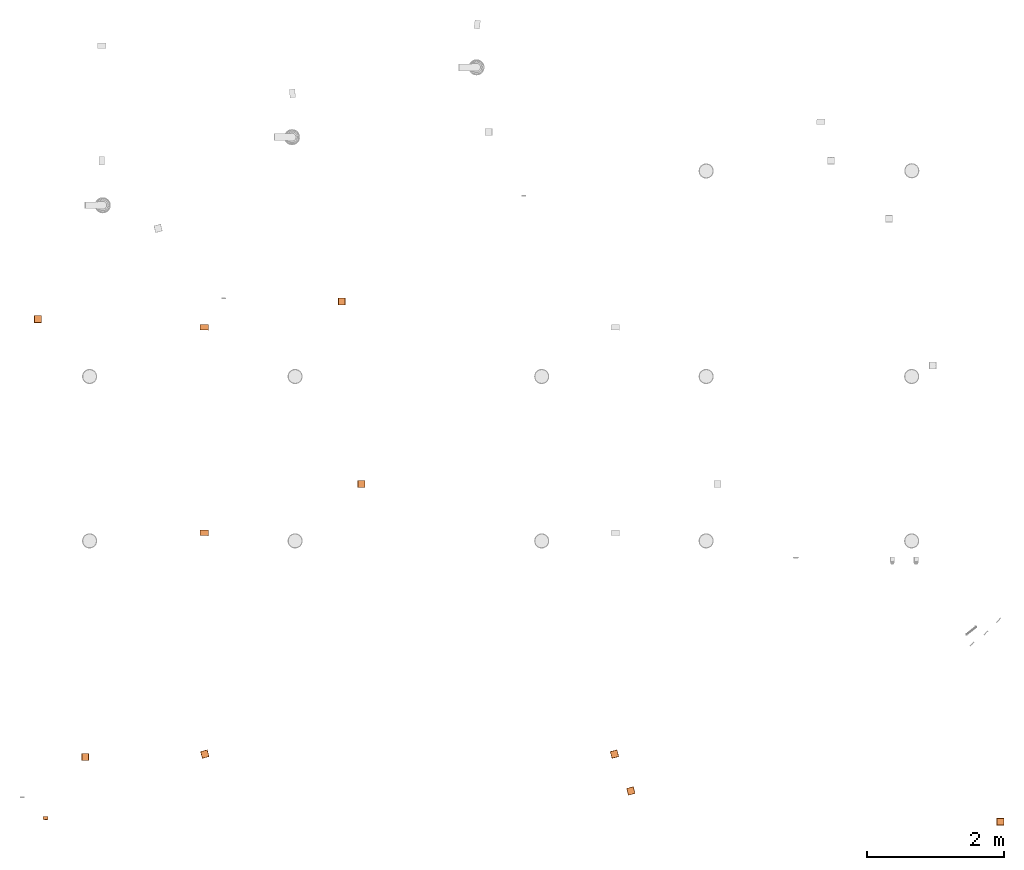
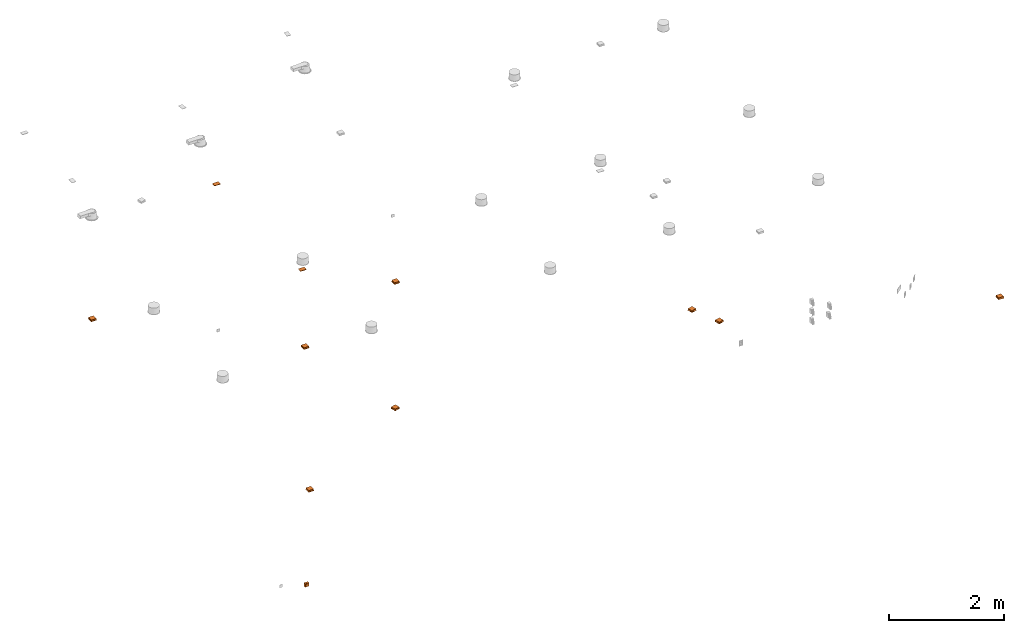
# One storey, part 3 of 9: 11 proxies.
"""IFC2X3 building model written with IfcOpenShell, lengths in millimetres."""

from ifc_helpers import new_model, entity, si_unit, converted_unit, derived_unit, direction, frame, frame_2d, origin, origin_2d_with_axis, place, context, subcontext, project, spatial, polyline, circle_curve, parameter, trimmed, segment, composite_curve, rectangle, circle, hollow_circle, outline, extrude, source, transform, mapped, material, type_object, element, save


model = new_model("IFC2X3")

# Units and contexts
model_context = context("Model", 3, precision=0.01, world=frame((0.0, 4.29681676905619e-09, 0.0)), true_north=direction((4.01073788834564e-13, 1.0)))
plan_context = context("Plan", 3, precision=0.01, world=frame((0.0, 4.29681676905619e-09, 0.0)), true_north=direction((4.01073788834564e-13, 1.0)))
body_context = subcontext(model_context, "Body", "Model", "MODEL_VIEW")
ifc_project = project(units=[converted_unit("PLANEANGLEUNIT", "DEGREE", entity("IfcPositiveLengthMeasure", 0.0174532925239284), si_unit("PLANEANGLEUNIT", "RADIAN"), dimensions=[0, 0, 0, 0, 0, 0, 0]), si_unit("AREAUNIT", "SQUARE_METRE"), si_unit("LENGTHUNIT", "METRE", prefix="MILLI"), si_unit("MASSUNIT", "GRAM", prefix="KILO"), si_unit("POWERUNIT", "WATT"), si_unit("PRESSUREUNIT", "PASCAL", prefix="KILO"), si_unit("FORCEUNIT", "NEWTON", prefix="KILO"), si_unit("ELECTRICVOLTAGEUNIT", "VOLT"), si_unit("ELECTRICCURRENTUNIT", "AMPERE"), si_unit("THERMODYNAMICTEMPERATUREUNIT", "DEGREE_CELSIUS"), si_unit("TIMEUNIT", "SECOND"), si_unit("VOLUMEUNIT", "CUBIC_METRE"), derived_unit("LINEARVELOCITYUNIT", [(si_unit("LENGTHUNIT", "METRE"), 1), (si_unit("TIMEUNIT", "SECOND"), -1)]), derived_unit("VOLUMETRICFLOWRATEUNIT", [(si_unit("VOLUMEUNIT", "CUBIC_METRE"), 1), (si_unit("TIMEUNIT", "SECOND"), -1)]), derived_unit("THERMALTRANSMITTANCEUNIT", [(si_unit("POWERUNIT", "WATT"), 1), (si_unit("THERMODYNAMICTEMPERATUREUNIT", "KELVIN"), -1), (si_unit("AREAUNIT", "SQUARE_METRE"), -1)]), derived_unit("SOUNDPRESSUREUNIT", [(si_unit("PRESSUREUNIT", "PASCAL"), 1)])], contexts=[model_context, plan_context])

# Site, building, storey
site_placement = place(None, frame((0.0, -4.29681676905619e-09, 0.0), z_axis=(0.0, 0.0, 1.0), x_axis=(1.0, 0.0, 0.0)))
site = spatial("IfcSite", under=ifc_project, at=site_placement, Name="Default", CompositionType="ELEMENT")
building_placement = place(site_placement, frame((0.0, 4.29681676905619e-09, 0.0), z_axis=(0.0, 0.0, 1.0), x_axis=(1.0, 0.0, 0.0)))
building = spatial("IfcBuilding", under=site, at=building_placement, CompositionType="ELEMENT")
storey_placement = place(building_placement, frame((0.0, 0.0, 210900.0), z_axis=(0.0, 0.0, 1.0), x_axis=(1.0, 0.0, 0.0)))
storey = spatial("IfcBuildingStorey", under=building, at=storey_placement, Name="Nivå F", CompositionType="ELEMENT", Elevation=210900.0)

# Proxies
ifc_material = material(Name="<Unnamed>")
building_element_proxy_type_1 = type_object("IfcBuildingElementProxyType", Name="Jordet-topolet-2-veis m_boks-i-tak:Jordet-topolet-2-veis m_boks-i-tak", PredefinedType="NOTDEFINED", material=ifc_material)
shared_shape_1 = source(origin(), body_context, "Body", "SweptSolid", [
    extrude(outline(composite_curve([segment(polyline([(-6.66666666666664, -6.66666666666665), (13.3333333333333, -6.66666666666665)]), True, "CONTINUOUS"), segment(trimmed(circle_curve(frame_2d((13.3333333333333, 13.3333333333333), x_axis=(-1.0, 0.0)), 20.0), [parameter(360.0)], [parameter(90.0)], True, "PARAMETER"), False, "CONTINUOUS"), segment(polyline([(-6.66666666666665, 13.3333333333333), (-6.66666666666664, -6.66666666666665)]), True, "CONTINUOUS")], self_intersect=False)), frame((39.0833333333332, 13.3933333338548, -17.1), z_axis=(0.0, 0.0, 1.0), x_axis=(-1.0, 0.0, 0.0)), (0.0, 0.0, 1.0), 0.200000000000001),
    extrude(outline(composite_curve([segment(polyline([(-6.66666666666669, -6.66666666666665), (13.3333333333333, -6.66666666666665)]), True, "CONTINUOUS"), segment(trimmed(circle_curve(frame_2d((13.3333333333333, 13.3333333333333), x_axis=(0.0, -1.0)), 20.0), [parameter(270.0)], [parameter(5.08888749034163e-14)], True, "PARAMETER"), False, "CONTINUOUS"), segment(polyline([(-6.66666666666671, 13.3333333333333), (-6.66666666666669, -6.66666666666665)]), True, "CONTINUOUS")], self_intersect=False)), frame((39.0833333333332, -13.3233333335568, -17.1), z_axis=(0.0, 0.0, 1.0), x_axis=(0.0, 1.0, 0.0)), (0.0, 0.0, 1.0), 0.200000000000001),
    extrude(outline(composite_curve([segment(polyline([(-6.66666666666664, -6.66666666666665), (13.3333333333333, -6.66666666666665)]), True, "CONTINUOUS"), segment(trimmed(circle_curve(frame_2d((13.3333333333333, 13.3333333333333), x_axis=(0.0, -1.0)), 20.0), [parameter(270.0)], [parameter(0.0)], True, "PARAMETER"), False, "CONTINUOUS"), segment(polyline([(-6.66666666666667, 13.3333333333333), (-6.66666666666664, -6.66666666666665)]), True, "CONTINUOUS")], self_intersect=False)), frame((12.4166666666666, 13.3433333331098, -17.1), z_axis=(0.0, 0.0, 1.0), x_axis=(0.0, -1.0, 0.0)), (0.0, 0.0, 1.0), 0.200000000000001),
    extrude(outline(composite_curve([segment(polyline([(-6.66666666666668, -6.66666666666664), (13.3333333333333, -6.66666666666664)]), True, "CONTINUOUS"), segment(trimmed(circle_curve(frame_2d((13.3333333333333, 13.3333333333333), x_axis=(0.0, -1.0)), 20.0), [parameter(270.0)], [parameter(0.0)], True, "PARAMETER"), False, "CONTINUOUS"), segment(polyline([(-6.66666666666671, 13.3333333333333), (-6.66666666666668, -6.66666666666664)]), True, "CONTINUOUS")], self_intersect=False)), frame((39.0833333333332, -13.3833333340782, -17.1), z_axis=(0.0, 0.0, 1.0), x_axis=(0.0, 1.0, 0.0)), (0.0, 0.0, 1.0), 0.200000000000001),
    extrude(outline(composite_curve([segment(polyline([(-6.66666666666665, -6.66666666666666), (13.3333333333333, -6.66666666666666)]), True, "CONTINUOUS"), segment(trimmed(circle_curve(frame_2d((13.3333333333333, 13.3333333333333), x_axis=(-1.0, 0.0)), 20.0), [parameter(360.0)], [parameter(89.9999999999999)], True, "PARAMETER"), False, "CONTINUOUS"), segment(polyline([(-6.66666666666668, 13.3333333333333), (-6.66666666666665, -6.66666666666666)]), True, "CONTINUOUS")], self_intersect=False)), frame((39.0833333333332, 13.3333333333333, -17.1), z_axis=(0.0, 0.0, 1.0), x_axis=(-1.0, 0.0, 0.0)), (0.0, 0.0, 1.0), 0.200000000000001),
    extrude(outline(composite_curve([segment(polyline([(-6.66666666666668, -6.66666666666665), (13.3333333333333, -6.66666666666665)]), True, "CONTINUOUS"), segment(trimmed(circle_curve(frame_2d((13.3333333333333, 13.3333333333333), x_axis=(-1.0, 0.0)), 20.0), [parameter(0.0)], [parameter(90.0)], True, "PARAMETER"), False, "CONTINUOUS"), segment(polyline([(-6.66666666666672, 13.3333333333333), (-6.66666666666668, -6.66666666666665)]), True, "CONTINUOUS")], self_intersect=False)), frame((12.4166666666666, -13.3333333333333, -17.1)), (0.0, 0.0, 1.0), 0.200000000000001),
    extrude(outline(composite_curve([segment(polyline([(-6.66666666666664, -6.66666666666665), (13.3333333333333, -6.66666666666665)]), True, "CONTINUOUS"), segment(trimmed(circle_curve(frame_2d((13.3333333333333, 13.3333333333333), x_axis=(-1.0, 0.0)), 20.0), [parameter(0.0)], [parameter(90.0)], True, "PARAMETER"), False, "CONTINUOUS"), segment(polyline([(-6.66666666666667, 13.3333333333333), (-6.66666666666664, -6.66666666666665)]), True, "CONTINUOUS")], self_intersect=False)), frame((-12.4166666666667, 13.3933333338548, -17.1), z_axis=(0.0, 0.0, 1.0), x_axis=(-1.0, 0.0, 0.0)), (0.0, 0.0, 1.0), 0.200000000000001),
    extrude(outline(composite_curve([segment(polyline([(-6.66666666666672, -6.66666666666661), (13.3333333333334, -6.66666666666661)]), True, "CONTINUOUS"), segment(trimmed(circle_curve(frame_2d((13.3333333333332, 13.3333333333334), x_axis=(0.0, -1.0)), 20.0), [parameter(270.0)], [parameter(3.56222124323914e-13)], True, "PARAMETER"), False, "CONTINUOUS"), segment(polyline([(-6.66666666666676, 13.3333333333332), (-6.66666666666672, -6.66666666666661)]), True, "CONTINUOUS")], self_intersect=False)), frame((-12.4166666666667, -13.3233333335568, -17.1), z_axis=(0.0, 0.0, 1.0), x_axis=(0.0, 1.0, 0.0)), (0.0, 0.0, 1.0), 0.200000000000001),
    extrude(outline(composite_curve([segment(polyline([(-6.66666666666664, -6.66666666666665), (13.3333333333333, -6.66666666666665)]), True, "CONTINUOUS"), segment(trimmed(circle_curve(frame_2d((13.3333333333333, 13.3333333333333), x_axis=(0.0, -1.0)), 20.0), [parameter(270.0)], [parameter(0.0)], True, "PARAMETER"), False, "CONTINUOUS"), segment(polyline([(-6.66666666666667, 13.3333333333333), (-6.66666666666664, -6.66666666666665)]), True, "CONTINUOUS")], self_intersect=False)), frame((-39.0833333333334, 13.3433333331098, -17.1), z_axis=(0.0, 0.0, 1.0), x_axis=(0.0, -1.0, 0.0)), (0.0, 0.0, 1.0), 0.200000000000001),
    extrude(outline(composite_curve([segment(polyline([(-6.66666666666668, -6.66666666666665), (13.3333333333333, -6.66666666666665)]), True, "CONTINUOUS"), segment(trimmed(circle_curve(frame_2d((13.3333333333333, 13.3333333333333), x_axis=(0.0, -1.0)), 20.0), [parameter(270.0)], [parameter(0.0)], True, "PARAMETER"), False, "CONTINUOUS"), segment(polyline([(-6.66666666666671, 13.3333333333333), (-6.66666666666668, -6.66666666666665)]), True, "CONTINUOUS")], self_intersect=False)), frame((-12.4166666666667, -13.3833333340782, -17.1), z_axis=(0.0, 0.0, 1.0), x_axis=(0.0, 1.0, 0.0)), (0.0, 0.0, 1.0), 0.200000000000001),
    extrude(outline(composite_curve([segment(polyline([(-6.66666666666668, -6.66666666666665), (13.3333333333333, -6.66666666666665)]), True, "CONTINUOUS"), segment(trimmed(circle_curve(frame_2d((13.3333333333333, 13.3333333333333), x_axis=(-1.0, 0.0)), 20.0), [parameter(0.0)], [parameter(90.0)], True, "PARAMETER"), False, "CONTINUOUS"), segment(polyline([(-6.66666666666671, 13.3333333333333), (-6.66666666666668, -6.66666666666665)]), True, "CONTINUOUS")], self_intersect=False)), frame((-12.4166666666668, 13.3333333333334, -17.1), z_axis=(0.0, 0.0, 1.0), x_axis=(-1.0, 0.0, 0.0)), (0.0, 0.0, 1.0), 0.200000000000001),
    extrude(outline(composite_curve([segment(polyline([(-6.66666666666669, -6.66666666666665), (13.3333333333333, -6.66666666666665)]), True, "CONTINUOUS"), segment(trimmed(circle_curve(frame_2d((13.3333333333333, 13.3333333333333), x_axis=(-1.0, 0.0)), 20.0), [parameter(0.0)], [parameter(90.0)], True, "PARAMETER"), False, "CONTINUOUS"), segment(polyline([(-6.66666666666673, 13.3333333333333), (-6.66666666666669, -6.66666666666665)]), True, "CONTINUOUS")], self_intersect=False)), frame((-39.0833333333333, -13.3333333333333, -17.1)), (0.0, 0.0, 1.0), 0.200000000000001),
    extrude(rectangle(XDim=0.200000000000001, YDim=1.0, at=origin_2d_with_axis()), frame((26.1999999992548, -17.5, -19.0), z_axis=(0.0, 0.0, 1.0), x_axis=(0.0, 1.0, 0.0)), (0.0, 0.0, 1.0), 6.0),
    extrude(rectangle(XDim=0.200000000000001, YDim=1.0, at=frame_2d((2.11636264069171e-15, 0.0), x_axis=(1.0, 0.0))), frame((26.1999999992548, -19.5, -17.0), z_axis=(0.0, 0.0, 1.0), x_axis=(0.0, 1.0, 0.0)), (0.0, 0.0, 1.0), 12.0),
    extrude(rectangle(XDim=0.200000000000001, YDim=1.0, at=frame_2d((2.11636264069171e-15, 0.0), x_axis=(1.0, 0.0))), frame((26.1999999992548, 17.5, -19.0), z_axis=(0.0, 0.0, 1.0), x_axis=(0.0, 1.0, 0.0)), (0.0, 0.0, 1.0), 6.0),
    extrude(rectangle(XDim=0.200000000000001, YDim=1.0, at=frame_2d((2.11636264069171e-15, 0.0), x_axis=(1.0, 0.0))), frame((26.1999999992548, 19.5, -17.0), z_axis=(0.0, 0.0, 1.0), x_axis=(0.0, 1.0, 0.0)), (0.0, 0.0, 1.0), 12.0),
    extrude(rectangle(XDim=0.200000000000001, YDim=1.0, at=origin_2d_with_axis()), frame((-25.3000000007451, -17.5, -19.0), z_axis=(0.0, 0.0, 1.0), x_axis=(0.0, 1.0, 0.0)), (0.0, 0.0, 1.0), 6.0),
    extrude(rectangle(XDim=0.200000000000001, YDim=1.0, at=frame_2d((2.11636264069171e-15, 0.0), x_axis=(1.0, 0.0))), frame((-25.3000000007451, -19.5, -17.0), z_axis=(0.0, 0.0, 1.0), x_axis=(0.0, 1.0, 0.0)), (0.0, 0.0, 1.0), 12.0),
    extrude(rectangle(XDim=0.200000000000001, YDim=1.0, at=frame_2d((2.11636264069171e-15, 0.0), x_axis=(1.0, 0.0))), frame((-25.3000000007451, 17.5, -19.0), z_axis=(0.0, 0.0, 1.0), x_axis=(0.0, 1.0, 0.0)), (0.0, 0.0, 1.0), 6.0),
    extrude(rectangle(XDim=0.200000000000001, YDim=1.0, at=frame_2d((2.11636264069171e-15, 0.0), x_axis=(1.0, 0.0))), frame((-25.3000000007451, 19.5, -17.0), z_axis=(0.0, 0.0, 1.0), x_axis=(0.0, 1.0, 0.0)), (0.0, 0.0, 1.0), 12.0),
    extrude(rectangle(XDim=11.0, YDim=40.0, at=origin_2d_with_axis()), frame((25.7499999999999, 25.5099999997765, -17.1), z_axis=(0.0, 0.0, 1.0), x_axis=(0.0, -1.0, 0.0)), (0.0, 0.0, 1.0), 0.200000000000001),
    extrude(rectangle(XDim=40.0, YDim=11.0, at=frame_2d((5.32907051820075e-15, 2.22044604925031e-15), x_axis=(1.0, 0.0))), frame((25.7499999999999, -25.5, -17.1)), (0.0, 0.0, 1.0), 0.200000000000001),
    extrude(rectangle(XDim=5.75, YDim=61.9999999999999, at=origin_2d_with_axis()), frame((48.625, 0.0, -17.1)), (0.0, 0.0, 1.0), 0.200000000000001),
    extrude(rectangle(XDim=61.9999999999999, YDim=5.74999999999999, at=frame_2d((0.0, 4.44089209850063e-16), x_axis=(1.0, 0.0))), frame((2.87499999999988, 0.0, -17.1), z_axis=(0.0, 0.0, 1.0), x_axis=(0.0, 1.0, 0.0)), (0.0, 0.0, 1.0), 0.200000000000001),
    extrude(rectangle(XDim=11.0, YDim=40.0, at=frame_2d((0.0, -3.5527136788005e-15), x_axis=(1.0, 0.0))), frame((-25.75, 25.5099999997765, -17.1), z_axis=(0.0, 0.0, 1.0), x_axis=(0.0, -1.0, 0.0)), (0.0, 0.0, 1.0), 0.200000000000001),
    extrude(rectangle(XDim=40.0, YDim=11.0, at=frame_2d((0.0, 2.22044604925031e-15), x_axis=(1.0, 0.0))), frame((-25.75, -25.5, -17.1)), (0.0, 0.0, 1.0), 0.200000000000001),
    extrude(rectangle(XDim=5.74999999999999, YDim=61.9999999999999, at=frame_2d((-4.44089209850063e-16, 0.0), x_axis=(1.0, 0.0))), frame((-2.875, 0.0, -17.1)), (0.0, 0.0, 1.0), 0.200000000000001),
    extrude(rectangle(XDim=61.9999999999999, YDim=5.75, at=origin_2d_with_axis()), frame((-48.6250000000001, 0.0, -17.1), z_axis=(0.0, 0.0, 1.0), x_axis=(0.0, 1.0, 0.0)), (0.0, 0.0, 1.0), 0.200000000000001),
    extrude(outline(polyline([(-28.6835176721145, -30.3192317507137), (-10.1362806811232, -30.3192317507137), (23.2918790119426, 21.8972229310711), (15.5279193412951, 38.7412405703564), (-28.6835176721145, -30.3192317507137)])), frame((56.42317787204, 0.0, -10.9359815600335), z_axis=(0.768221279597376, 0.0, -0.64018439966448), x_axis=(-0.539163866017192, 0.539163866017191, -0.646996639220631)), (0.0, 0.0, 1.0), 0.199999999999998),
    extrude(outline(polyline([(-28.6835176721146, -30.3192317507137), (-10.1362806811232, -30.3192317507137), (23.2918790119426, 21.897222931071), (15.5279193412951, 38.7412405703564), (-28.6835176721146, -30.3192317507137)])), frame((-56.5768221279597, 0.0, -11.0640184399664), z_axis=(0.768221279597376, 0.0, 0.64018439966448), x_axis=(0.539163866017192, 0.539163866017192, -0.646996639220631)), (0.0, 0.0, 1.0), 0.199999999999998),
    extrude(outline(polyline([(-51.4999999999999, -7.81024967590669), (51.5, -7.81024967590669), (61.4999999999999, 7.81024967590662), (-61.5, 7.81024967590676), (-51.4999999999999, -7.81024967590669)])), frame((0.0, -36.0768221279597, -11.0640184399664), z_axis=(0.0, 0.768221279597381, 0.640184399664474), x_axis=(-1.0, 0.0, 0.0)), (0.0, 0.0, 1.0), 0.200000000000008),
    extrude(outline(polyline([(-51.4999999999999, -7.81024967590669), (51.5, -7.81024967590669), (61.4999999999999, 7.81024967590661), (-61.5, 7.81024967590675), (-51.4999999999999, -7.81024967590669)])), frame((0.0, 35.9231778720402, -10.9359815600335), z_axis=(0.0, 0.768221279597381, -0.640184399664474), x_axis=(-1.0, 0.0, 0.0)), (0.0, 0.0, 1.0), 0.199999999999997),
    extrude(circle(Radius=2.5, at=frame_2d((-4.22994972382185e-15, -1.1255311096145e-14), x_axis=(1.0, 0.0))), frame((35.7499999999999, 0.0, -5.6), z_axis=(0.0, 0.0, 1.0), x_axis=(-1.0, 0.0, 0.0)), (0.0, 0.0, 1.0), 0.2),
    extrude(circle(Radius=2.5, at=frame_2d((0.0, -1.1255311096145e-14), x_axis=(1.0, 0.0))), frame((15.7499999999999, 0.0, -5.6), z_axis=(0.0, 0.0, 1.0), x_axis=(-1.0, 0.0, 0.0)), (0.0, 0.0, 1.0), 0.2),
    extrude(circle(Radius=2.5, at=frame_2d((0.0, -1.1255311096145e-14), x_axis=(1.0, 0.0))), frame((-15.75, 0.0, -5.6), z_axis=(0.0, 0.0, 1.0), x_axis=(-1.0, 0.0, 0.0)), (0.0, 0.0, 1.0), 0.2),
    extrude(circle(Radius=2.5, at=frame_2d((0.0, -1.1255311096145e-14), x_axis=(1.0, 0.0))), frame((-35.75, 0.0, -5.6), z_axis=(0.0, 0.0, 1.0), x_axis=(-1.0, 0.0, 0.0)), (0.0, 0.0, 1.0), 0.2),
    extrude(circle(Radius=20.0, at=frame_2d((0.0, -9.00424887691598e-14), x_axis=(1.0, 0.0))), frame((25.7499999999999, 0.0, -5.09999999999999), z_axis=(0.0, 0.0, 1.0), x_axis=(-1.0, 0.0, 0.0)), (0.0, 0.0, 1.0), 0.2),
    extrude(circle(Radius=20.0, at=frame_2d((4.22994972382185e-15, -9.00424887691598e-14), x_axis=(1.0, 0.0))), frame((-25.75, 0.0, -5.09999999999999), z_axis=(0.0, 0.0, 1.0), x_axis=(-1.0, 0.0, 0.0)), (0.0, 0.0, 1.0), 0.2),
    extrude(outline(composite_curve([segment(trimmed(circle_curve(frame_2d((-0.800000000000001, 0.799999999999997), x_axis=(1.0, 0.0)), 2.0), [parameter(270.0)], [parameter(0.0)], True, "PARAMETER"), True, "CONTINUOUS"), segment(polyline([(1.2, 0.799999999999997), (0.400000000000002, 0.799999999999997)]), True, "CONTINUOUS"), segment(trimmed(circle_curve(frame_2d((-0.800000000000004, 0.800000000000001), x_axis=(0.0, -1.0)), 1.20000000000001), [parameter(0.0)], [parameter(89.9999999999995)], True, "PARAMETER"), False, "CONTINUOUS"), segment(polyline([(-0.799999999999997, -0.400000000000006), (-0.799999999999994, -1.2)]), True, "CONTINUOUS")], self_intersect=False)), frame((24.6999999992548, -18.3, -17.8), z_axis=(1.0, 0.0, 0.0), x_axis=(0.0, 0.0, -1.0)), (0.0, 0.0, 1.0), 2.0),
    extrude(outline(composite_curve([segment(polyline([(-1.2, -0.800000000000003), (-0.399999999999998, -0.800000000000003)]), True, "CONTINUOUS"), segment(trimmed(circle_curve(frame_2d((0.800000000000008, -0.800000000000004), x_axis=(-1.0, 0.0)), 1.20000000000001), [parameter(270.000000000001)], [parameter(0.0)], True, "PARAMETER"), False, "CONTINUOUS"), segment(polyline([(0.799999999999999, 0.400000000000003), (0.799999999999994, 1.2)]), True, "CONTINUOUS"), segment(trimmed(circle_curve(frame_2d((0.800000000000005, -0.8), x_axis=(0.0, 1.0)), 2.0), [parameter(0.0)], [parameter(89.9999999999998)], True, "PARAMETER"), True, "CONTINUOUS")], self_intersect=False)), frame((25.6999999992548, 18.3, -17.8), z_axis=(1.0, 0.0, 0.0), x_axis=(0.0, -1.0, 0.0)), (0.0, 0.0, 1.0), 2.0),
    extrude(outline(composite_curve([segment(trimmed(circle_curve(frame_2d((-0.800000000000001, 0.799999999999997), x_axis=(1.0, 0.0)), 2.0), [parameter(270.0)], [parameter(0.0)], True, "PARAMETER"), True, "CONTINUOUS"), segment(polyline([(1.2, 0.799999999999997), (0.400000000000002, 0.799999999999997)]), True, "CONTINUOUS"), segment(trimmed(circle_curve(frame_2d((-0.800000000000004, 0.800000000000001), x_axis=(0.0, -1.0)), 1.20000000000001), [parameter(0.0)], [parameter(89.9999999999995)], True, "PARAMETER"), False, "CONTINUOUS"), segment(polyline([(-0.799999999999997, -0.400000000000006), (-0.799999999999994, -1.2)]), True, "CONTINUOUS")], self_intersect=False)), frame((-26.8000000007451, -18.3, -17.8), z_axis=(1.0, 0.0, 0.0), x_axis=(0.0, 0.0, -1.0)), (0.0, 0.0, 1.0), 2.0),
    extrude(outline(composite_curve([segment(polyline([(-1.2, -0.800000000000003), (-0.399999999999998, -0.800000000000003)]), True, "CONTINUOUS"), segment(trimmed(circle_curve(frame_2d((0.800000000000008, -0.800000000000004), x_axis=(-1.0, 0.0)), 1.20000000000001), [parameter(270.000000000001)], [parameter(0.0)], True, "PARAMETER"), False, "CONTINUOUS"), segment(polyline([(0.799999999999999, 0.400000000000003), (0.799999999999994, 1.2)]), True, "CONTINUOUS"), segment(trimmed(circle_curve(frame_2d((0.800000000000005, -0.8), x_axis=(0.0, 1.0)), 2.0), [parameter(0.0)], [parameter(89.9999999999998)], True, "PARAMETER"), True, "CONTINUOUS")], self_intersect=False)), frame((-25.8000000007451, 18.3, -17.8), z_axis=(1.0, 0.0, 0.0), x_axis=(0.0, -1.0, 0.0)), (0.0, 0.0, 1.0), 2.0),
    extrude(rectangle(XDim=81.9999999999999, YDim=123.0, at=origin_2d_with_axis()), frame((0.0, 0.0, -5.0), z_axis=(0.0, 0.0, 1.0), x_axis=(0.0, -1.0, 0.0)), (0.0, 0.0, 1.0), 4.99999999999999),
    extrude(hollow_circle(Radius=20.0, WallThickness=0.199999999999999, at=frame_2d((0.0, -9.00424887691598e-14), x_axis=(1.0, 0.0))), frame((25.7499999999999, 0.0, -17.0), z_axis=(0.0, 0.0, 1.0), x_axis=(-1.0, 0.0, 0.0)), (0.0, 0.0, 1.0), 12.0),
    extrude(hollow_circle(Radius=20.0, WallThickness=0.199999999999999, at=frame_2d((4.22994972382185e-15, -9.00424887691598e-14), x_axis=(1.0, 0.0))), frame((-25.75, 0.0, -17.0), z_axis=(0.0, 0.0, 1.0), x_axis=(-1.0, 0.0, 0.0)), (0.0, 0.0, 1.0), 12.0),
])
for number, where, z_axis, x_axis in (
    (1, (717175.653871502, 438717.929486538, 4480.0), (0.0, 0.0, 1.0), (0.999548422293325, -0.0300491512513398, 0.0)),
    (2, (717175.653871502, 441717.929486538, 4480.0), (0.0, 0.0, 1.0), (0.999548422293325, -0.0300491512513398, 0.0)),
):
    element("IfcBuildingElementProxy", number, at=place(storey_placement, frame(where, z_axis=z_axis, x_axis=x_axis)), inside=storey, type_object=building_element_proxy_type_1, material=ifc_material, Name="Jordet-topolet-2-veis m_boks-i-tak:Jordet-topolet-2-veis m_boks-i-tak", ObjectType="Jordet-topolet-2-veis m_boks-i-tak:Jordet-topolet-2-veis m_boks-i-tak", context=body_context, shape_type="MappedRepresentation", body=[
        mapped(shared_shape_1, transform((0.0, 0.0, 0.0), scale=1.0)),
    ])
building_element_proxy_type_2 = type_object("IfcBuildingElementProxyType", Name="Koblingsboks tak-himling:Koblingsboks tak-himling", PredefinedType="NOTDEFINED", material=ifc_material)
shared_shape_2 = source(origin(), body_context, "Body", "SweptSolid", [
    extrude(circle(Radius=7.40000009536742, at=frame_2d((0.0, -1.05748743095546e-14), x_axis=(1.0, 0.0))), frame((50.0000000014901, -16.6666666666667, -12.9499997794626), z_axis=(1.0, 0.0, 0.0), x_axis=(0.0, 1.0, 0.0)), (0.0, 0.0, 1.0), 0.199999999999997),
    extrude(circle(Radius=7.40000009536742, at=frame_2d((0.0, -1.05748743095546e-14), x_axis=(1.0, 0.0))), frame((50.0000000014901, 16.6666666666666, -12.9499997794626), z_axis=(1.0, 0.0, 0.0), x_axis=(0.0, 1.0, 0.0)), (0.0, 0.0, 1.0), 0.199999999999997),
    extrude(circle(Radius=7.40000009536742, at=frame_2d((-2.11497486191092e-15, -1.26898491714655e-14), x_axis=(1.0, 0.0))), frame((25.0, -50.2000000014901, -12.9499997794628), z_axis=(0.0, 1.0, 0.0), x_axis=(0.0, 0.0, 1.0)), (0.0, 0.0, 1.0), 0.199999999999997),
    extrude(circle(Radius=7.40000009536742, at=frame_2d((-2.11497486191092e-15, -1.19550300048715e-14), x_axis=(1.0, 0.0))), frame((0.0, -50.2000000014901, -12.9499997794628), z_axis=(0.0, 1.0, 0.0), x_axis=(0.0, 0.0, 1.0)), (0.0, 0.0, 1.0), 0.199999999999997),
    extrude(circle(Radius=7.40000009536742, at=frame_2d((-2.11497486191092e-15, -1.26898491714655e-14), x_axis=(1.0, 0.0))), frame((-25.0, -50.2000000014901, -12.9499997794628), z_axis=(0.0, 1.0, 0.0), x_axis=(0.0, 0.0, 1.0)), (0.0, 0.0, 1.0), 0.199999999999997),
    extrude(circle(Radius=7.40000009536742, at=frame_2d((-2.11497486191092e-15, -1.26898491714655e-14), x_axis=(1.0, 0.0))), frame((25.0, 50.0000000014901, -12.9499997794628), z_axis=(0.0, 1.0, 0.0), x_axis=(0.0, 0.0, 1.0)), (0.0, 0.0, 1.0), 0.199999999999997),
    extrude(circle(Radius=7.40000009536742, at=frame_2d((-2.11497486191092e-15, -1.19550300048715e-14), x_axis=(1.0, 0.0))), frame((0.0, 50.0000000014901, -12.9499997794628), z_axis=(0.0, 1.0, 0.0), x_axis=(0.0, 0.0, 1.0)), (0.0, 0.0, 1.0), 0.199999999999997),
    extrude(circle(Radius=7.40000009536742, at=frame_2d((-2.11497486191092e-15, -1.26898491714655e-14), x_axis=(1.0, 0.0))), frame((-25.0, 50.0000000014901, -12.9499997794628), z_axis=(0.0, 1.0, 0.0), x_axis=(0.0, 0.0, 1.0)), (0.0, 0.0, 1.0), 0.199999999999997),
    extrude(circle(Radius=7.40000009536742, at=frame_2d((0.0, -1.05748743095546e-14), x_axis=(1.0, 0.0))), frame((-50.2000000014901, -16.6666666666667, -12.9499997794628), z_axis=(1.0, 0.0, 0.0), x_axis=(0.0, 1.0, 0.0)), (0.0, 0.0, 1.0), 0.199999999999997),
    extrude(circle(Radius=7.40000009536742, at=frame_2d((0.0, -1.05748743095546e-14), x_axis=(1.0, 0.0))), frame((-50.2000000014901, 16.6666666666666, -12.9499997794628), z_axis=(1.0, 0.0, 0.0), x_axis=(0.0, 1.0, 0.0)), (0.0, 0.0, 1.0), 0.199999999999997),
    extrude(rectangle(XDim=99.9999999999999, YDim=99.9999999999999, at=origin_2d_with_axis()), frame((0.0, 0.0, -25.8999996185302), z_axis=(0.0, 0.0, 1.0), x_axis=(0.0, -1.0, 0.0)), (0.0, 0.0, 1.0), 25.8999996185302),
    extrude(rectangle(XDim=106.0, YDim=106.0, at=origin_2d_with_axis()), frame((0.0, 0.0, -37.0), z_axis=(0.0, 0.0, 1.0), x_axis=(0.0, -1.0, 0.0)), (0.0, 0.0, 1.0), 11.1000003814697),
])
for number, where, z_axis, x_axis, name in (
    (3, (714745.230721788, 441837.650114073, 2400.0), (0.0, 0.0, 1.0), (-1.0, 0.0, 0.0), "Koblingsboks tak-himling:Koblingsboks tak-himling"),
    (4, (728795.22889562, 434500.507159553, 2400.0), (0.0, 0.0, 1.0), (-1.0, 0.0, 0.0), "Koblingsboks tak-himling:Koblingsboks tak-himling"),
    (5, (719180.778564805, 442094.748654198, 100.0), (0.0, 0.0, 1.0), (-1.0, 0.0, 0.0), "Koblingsboks tak-himling:Koblingsboks tak-himling"),
    (6, (719467.565299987, 439431.500465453, 3000.0), (0.0, 0.0, 1.0), (-1.0, 0.0, 0.0), "Koblingsboks tak-himling:Koblingsboks tak-himling"),
    (7, (715436.46192503, 435445.686422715, 2400.0), (0.0, 0.0, 1.0), (-1.0, 0.0, 0.0), "Koblingsboks tak-himling:Koblingsboks tak-himling"),
    (8, (717182.150932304, 435488.010685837, 3500.0), (0.0, 0.0, 1.0), (0.965925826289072, 0.258819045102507, 0.0), "Koblingsboks tak-himling:Koblingsboks tak-himling"),
    (9, (723162.150932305, 435488.010685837, 3500.0), (0.0, 0.0, 1.0), (0.965925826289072, 0.258819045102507, 0.0), "Koblingsboks tak-himling:Koblingsboks tak-himling"),
    (10, (723401.565032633, 434950.225851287, 3500.0), (0.0, 0.0, 1.0), (0.965925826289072, 0.258819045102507, 0.0), "Koblingsboks tak-himling:Koblingsboks tak-himling"),
):
    element("IfcBuildingElementProxy", number, at=place(storey_placement, frame(where, z_axis=z_axis, x_axis=x_axis)), inside=storey, type_object=building_element_proxy_type_2, material=ifc_material, Name=name, ObjectType="Koblingsboks tak-himling:Koblingsboks tak-himling", context=body_context, shape_type="MappedRepresentation", body=[
        mapped(shared_shape_2, transform((0.0, 0.0, 0.0), scale=1.0)),
    ])
building_element_proxy_type_3 = type_object("IfcBuildingElementProxyType", Name="Tempraturføler:OTHER-EE-POWER-BALANCED-DUMMY", PredefinedType="NOTDEFINED", material=ifc_material)
shared_shape_3 = source(origin(), body_context, "Body", "SweptSolid", [
    extrude(circle(Radius=20.0, at=frame_2d((-1.05748743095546e-15, -9.00424887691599e-14), x_axis=(1.0, 0.0))), frame((-9.3406664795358, 41.6363888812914, 0.0), z_axis=(0.0, 1.0, 0.0), x_axis=(1.0, 0.0, 0.0)), (0.0, 0.0, 1.0), 4.60285313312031),
    extrude(rectangle(XDim=43.0, YDim=75.0, at=origin_2d_with_axis()), frame((-0.206696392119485, 21.5, -36.0), z_axis=(0.0, 0.0, 1.0), x_axis=(0.0, 1.0, 0.0)), (0.0, 0.0, 1.0), 72.0),
])
proxy_placement = place(storey_placement, frame((714855.276844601, 434575.999999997, 1100.0), z_axis=(0.0, 0.0, 1.0), x_axis=(-1.0, 0.0, 0.0)))
element("IfcBuildingElementProxy", 11, at=proxy_placement, inside=storey, type_object=building_element_proxy_type_3, material=ifc_material, Name="Tempraturføler:OTHER-EE-POWER-BALANCED-DUMMY", ObjectType="Tempraturføler:OTHER-EE-POWER-BALANCED-DUMMY", context=body_context, shape_type="MappedRepresentation", body=[
    mapped(shared_shape_3, transform((0.0, 0.0, 0.0), scale=1.0)),
])

save(model, "model.ifc")
